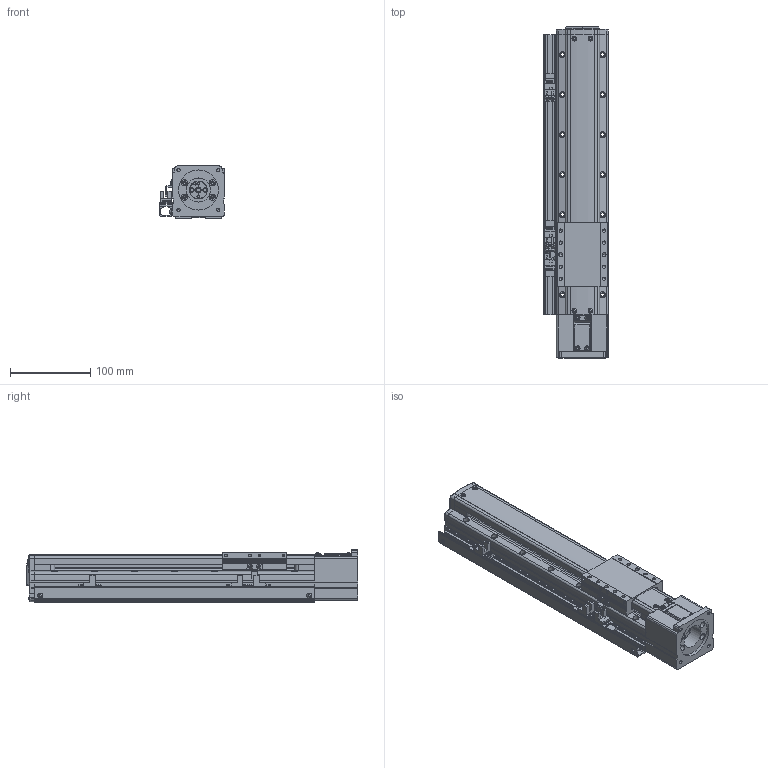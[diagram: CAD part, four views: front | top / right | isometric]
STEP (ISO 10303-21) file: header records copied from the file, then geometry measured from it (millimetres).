
FILE_DESCRIPTION(('STEP AP214'),'1');
FILE_NAME('Z:/Web/3D/PSA65/STP/PSA65-200 (3D)/PSA65ㅁㅁ-200S+3SL.stp','2014-06-25T03:24:36',(' '),(' '),'Spatial InterOp 3D',' ',' ');
FILE_SCHEMA(('automotive_design'));
Length unit declared in the file: millimetre
Products named in the file (98): SLIDE; RRCV-PA060; 1; 2; 3; 4; 5; 6; 7; 8; 9; 10; 11; 12; 13; 14; 15; 16; 17; 18; 19; 20; 21; 22; 23; 24; 25; 26; 27; 28; 29; 30; 31; 스크루 : Round - M3.0 x 8.0; RN8 x 0.75; SHAFT-SAN65; BASE; 스크루 : Round - M3.0 x 6.0; MTHZ - PSA65-60A; CPLCV-SAN45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
Bounding box: 81 x 414.8 x 65 mm (x, y, z)
Volume: 1329237.5 mm3; surface area: 255213.3 mm2
Topology: 98 solids, 98 shells, 2821 faces, 7433 edges, 4797 vertices
Faces by surface type: plane 1567, cylinder 832, cone 329, sphere 50, bspline 23, torus 20
Entity records: 113160 total; most frequent: CARTESIAN_POINT 17801, DIRECTION 15293, ORIENTED_EDGE 14646, EDGE_CURVE 7323, AXIS2_PLACEMENT_3D 5267, VERTEX_POINT 4797, LINE 4759, VECTOR 4759
